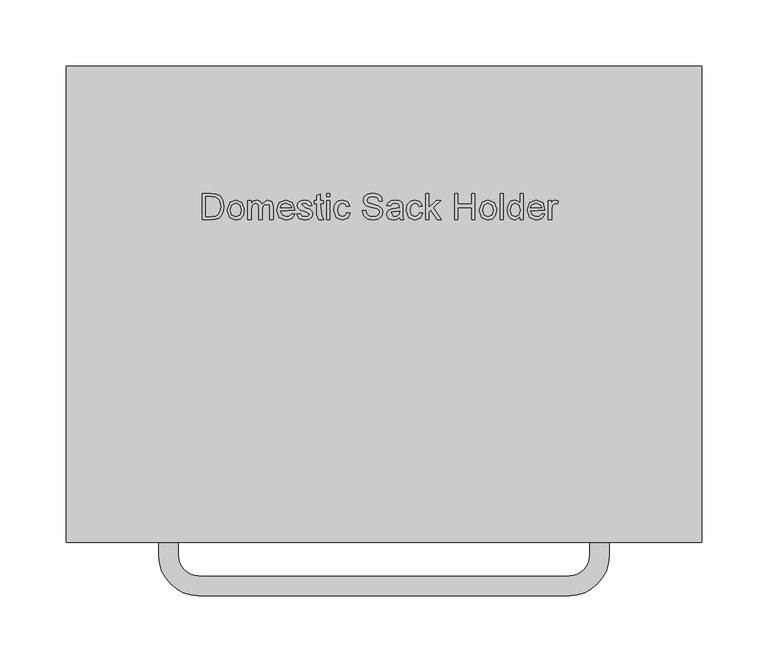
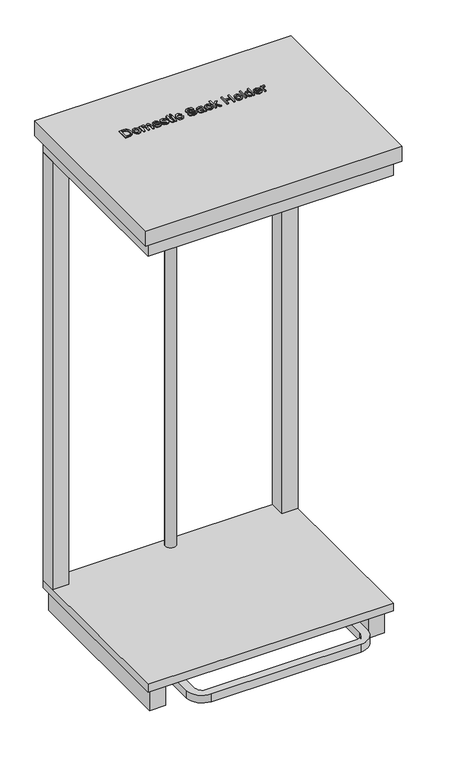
"""IFC4 building model written with IfcOpenShell, lengths in millimetres: furniture geometry, BIMHealth-Sack_Holder_Domestic-LOD2A-v1 : BIMHealth-Sack_Holder_Domestic-LOD2A-v1."""

from ifc_helpers import new_model, si_unit, point, frame, frame_2d, origin, origin_with_axes, place, context, project, spatial, polyline, circle_curve, trimmed, segment, composite_curve, outline, extrude, source, transform, mapped, element, save


def furniture_b2577ec9(model_context):
    return source(origin(), model_context, "Body", "SweptSolid", [
        extrude(outline(polyline([(82.8145603, -95.9720816), (82.8145603, -76.279774), (89.6078295, -76.279774), (93.1222526, -76.5634278), (96.0164833, -77.9720816), (98.3482141, -81.3374663), (99.1222526, -86.0201586), (98.5982141, -89.9937163), (97.2520603, -92.8615047), (95.4539833, -94.6475624), (93.100618, -95.6355432), (89.9347526, -95.9720816), (82.8145603, -95.9720816)]), holes=[polyline([(85.2760987, -93.5105432), (89.631868, -93.5105432), (92.8001372, -93.154774), (94.6270603, -92.1499663), (96.1246564, -89.7052547), (96.6607141, -85.981697), (95.6102333, -81.3182355), (93.0549449, -79.1355432), (89.5645603, -78.7413124), (85.2760987, -78.7413124), (85.2760987, -93.5105432)])]), frame((0.0, 0.0, 970.0), z_axis=(0.0, 0.0, 1.0), x_axis=(1.0, 0.0, 0.0)), (0.0, 0.0, 1.0), 2.0),
        extrude(outline(polyline([(101.583791, -88.7413124), (103.7135987, -82.8038124), (108.0501372, -81.2028509), (112.7015795, -83.1523701), (114.506868, -88.5393893), (113.708791, -92.919197), (111.3842718, -95.3975624), (108.0501372, -96.279774), (103.3698487, -94.3374663), (101.583791, -88.7413124)]), holes=[polyline([(104.0453295, -88.7365047), (105.1847526, -92.5514086), (108.0501372, -93.8182355), (110.9059064, -92.544197), (112.0453295, -88.6595816), (110.8986949, -84.9312163), (108.0501372, -83.6643893), (105.1847526, -84.9264086), (104.0453295, -88.7365047)])]), frame((0.0, 0.0, 970.0), z_axis=(0.0, 0.0, 1.0), x_axis=(1.0, 0.0, 0.0)), (0.0, 0.0, 1.0), 2.0),
        extrude(outline(polyline([(117.2760987, -95.9720816), (117.2760987, -81.5105432), (119.7376372, -81.5105432), (119.7376372, -83.8903509), (121.4299449, -81.9408316), (123.8385987, -81.2028509), (126.3049449, -81.9552547), (127.6607141, -84.0634278), (132.006868, -81.2028509), (135.225618, -82.3927547), (136.3530218, -86.0586201), (136.3530218, -95.9720816), (133.8914833, -95.9720816), (133.8914833, -87.1163124), (133.663118, -85.061024), (129.0092718, -84.6499663), (128.0453295, -87.8086201), (128.0453295, -95.9720816), (125.583791, -95.9720816), (125.583791, -86.842274), (125.0140795, -84.4576586), (123.146291, -83.6643893), (121.3241756, -84.1932355), (120.1126372, -85.7413124), (119.7376372, -88.6788124), (119.7376372, -95.9720816), (117.2760987, -95.9720816)])), frame((0.0, 0.0, 970.0), z_axis=(0.0, 0.0, 1.0), x_axis=(1.0, 0.0, 0.0)), (0.0, 0.0, 1.0), 2.0),
        extrude(outline(polyline([(150.1703295, -91.6643893), (152.583791, -91.9720816), (150.3265795, -95.1499663), (146.1222526, -96.279774), (141.0116756, -94.3302547), (139.1222526, -88.8615047), (141.0309064, -83.2124663), (145.9828295, -81.2028509), (150.7929256, -83.2076586), (152.6607141, -88.8470816), (141.583791, -89.5105432), (142.9996564, -92.7076586), (146.1703295, -93.8182355), (148.583791, -93.3038124), (150.1703295, -91.6643893)]), holes=[polyline([(141.583791, -87.0490047), (150.1991756, -87.0490047), (149.2135987, -84.8182355), (145.9732141, -83.6643893), (142.9419641, -84.5850624), (141.583791, -87.0490047)])]), frame((0.0, 0.0, 970.0), z_axis=(0.0, 0.0, 1.0), x_axis=(1.0, 0.0, 0.0)), (0.0, 0.0, 1.0), 2.0),
        extrude(outline(polyline([(154.1991756, -91.6643893), (156.6607141, -91.356697), (157.8001372, -93.1836201), (160.4107141, -93.8182355), (162.9203295, -93.2365047), (163.7376372, -91.8711201), (160.381868, -90.0634278), (156.6751372, -88.8591009), (155.0573487, -87.4528509), (154.506868, -85.467274), (154.9491756, -83.6331393), (156.1559064, -82.231697), (157.7208103, -81.5033316), (159.8385987, -81.2028509), (162.833791, -81.686024), (164.7376372, -82.9937163), (165.583791, -85.2028509), (163.1222526, -85.5105432), (162.1967718, -84.1523701), (160.0309064, -83.6643893), (157.6751372, -84.1307355), (160.3001372, -87.0009278), (163.913118, -88.1595816), (165.5910026, -89.4720816), (166.1991756, -91.6115047), (165.4852333, -93.967274), (163.4251372, -95.6764086), (160.3770603, -96.279774), (156.083791, -95.1163124), (154.1991756, -91.6643893)])), frame((0.0, 0.0, 970.0), z_axis=(0.0, 0.0, 1.0), x_axis=(1.0, 0.0, 0.0)), (0.0, 0.0, 1.0), 2.0),
        extrude(outline(polyline([(172.9684064, -92.9264086), (174.506868, -96.044197), (172.6655218, -96.279774), (170.6030218, -95.8711201), (169.2760987, -92.0057355), (169.2760987, -83.9720816), (167.4299449, -83.9720816), (167.4299449, -81.5105432), (169.2760987, -81.5105432), (169.2760987, -77.9961201), (171.7376372, -76.5490047), (171.7376372, -81.5105432), (174.1991756, -81.5105432), (174.1991756, -83.9720816), (171.7376372, -83.9720816), (172.9684064, -92.9264086)])), frame((0.0, 0.0, 970.0), z_axis=(0.0, 0.0, 1.0), x_axis=(1.0, 0.0, 0.0)), (0.0, 0.0, 1.0), 2.0),
        extrude(outline(polyline([(176.6607141, -95.9720816), (176.6607141, -81.5105432), (179.1222526, -81.5105432), (179.1222526, -95.9720816), (176.6607141, -95.9720816)])), frame((0.0, 0.0, 970.0), z_axis=(0.0, 0.0, 1.0), x_axis=(1.0, 0.0, 0.0)), (0.0, 0.0, 1.0), 2.0),
        extrude(outline(polyline([(176.6607141, -78.7413124), (176.6607141, -76.279774), (179.1222526, -76.279774), (179.1222526, -78.7413124), (176.6607141, -78.7413124)])), frame((0.0, 0.0, 970.0), z_axis=(0.0, 0.0, 1.0), x_axis=(1.0, 0.0, 0.0)), (0.0, 0.0, 1.0), 2.0),
        extrude(outline(polyline([(192.0453295, -90.7413124), (194.506868, -91.0490047), (192.5309064, -94.8927547), (188.6270603, -96.279774), (183.9611949, -94.3446778), (182.1991756, -88.794197), (182.9515795, -84.7052547), (185.2448487, -82.0778509), (188.5934064, -81.2028509), (192.3361949, -82.404774), (194.1991756, -85.8182355), (191.7376372, -86.1259278), (190.5958103, -84.2821778), (188.6126372, -83.6643893), (185.7592718, -84.8807355), (184.6607141, -88.7268893), (185.7352333, -92.6091009), (188.5453295, -93.8182355), (190.865041, -93.0634278), (192.0453295, -90.7413124)])), frame((0.0, 0.0, 970.0), z_axis=(0.0, 0.0, 1.0), x_axis=(1.0, 0.0, 0.0)), (0.0, 0.0, 1.0), 2.0),
        extrude(outline(polyline([(203.7376372, -89.2028509), (206.1991756, -89.2028509), (206.9924449, -91.6667932), (208.9299449, -93.2244855), (211.881868, -93.8182355), (214.4539833, -93.3687163), (216.115041, -92.1331393), (216.6607141, -90.481697), (216.2520603, -88.9456393), (214.5789833, -87.8278509), (210.9948487, -86.887947), (207.1366756, -85.6740047), (205.0429256, -83.842274), (204.3530218, -81.3951586), (205.2063872, -78.6091009), (207.6991756, -76.6427547), (211.3482141, -75.9720816), (215.2424449, -76.6740047), (217.8385987, -78.7365047), (218.8145603, -81.8182355), (216.3530218, -81.8182355), (214.958791, -79.2893893), (211.444368, -78.4336201), (207.9203295, -79.279774), (206.8145603, -81.3230432), (207.5982141, -83.029774), (211.6174449, -84.404774), (215.9732141, -85.6403509), (218.3554256, -87.6355432), (219.1222526, -90.419197), (218.240041, -93.3639086), (215.7015795, -95.512947), (211.9780218, -96.279774), (207.5813872, -95.4528509), (204.8001372, -92.9624663), (203.7376372, -89.2028509)])), frame((0.0, 0.0, 970.0), z_axis=(0.0, 0.0, 1.0), x_axis=(1.0, 0.0, 0.0)), (0.0, 0.0, 1.0), 2.0),
        extrude(outline(polyline([(231.7376372, -94.1259278), (229.350618, -95.794197), (226.7135987, -96.279774), (223.1390795, -95.1115047), (221.8914833, -92.1259278), (222.3626372, -90.1788124), (223.600618, -88.7653509), (225.3241756, -87.9576586), (227.4539833, -87.5874663), (231.7232141, -86.7413124), (231.0597526, -84.3759278), (228.3385987, -83.6643893), (225.8482141, -84.137947), (224.6607141, -85.8182355), (222.1991756, -85.5105432), (223.2640795, -83.106697), (225.4083103, -81.6980432), (228.6559064, -81.2028509), (231.6390795, -81.6403509), (233.3241756, -82.7389086), (234.0789833, -84.4095816), (234.1991756, -86.5634278), (234.1991756, -89.6259278), (234.3241756, -93.9023701), (234.8145603, -95.9720816), (232.3530218, -95.9720816), (231.7376372, -94.1259278)]), holes=[polyline([(231.7304256, -89.5514086), (227.7664833, -89.9576586), (225.6486949, -90.356697), (227.2376372, -93.8182355), (229.7280218, -93.2292932), (231.333791, -91.8038124), (231.7304256, -89.5514086)])]), frame((0.0, 0.0, 970.0), z_axis=(0.0, 0.0, 1.0), x_axis=(1.0, 0.0, 0.0)), (0.0, 0.0, 1.0), 2.0),
        extrude(outline(polyline([(246.8145603, -90.7413124), (249.2760987, -91.0490047), (247.3001372, -94.8927547), (243.396291, -96.279774), (238.7304256, -94.3446778), (236.9684064, -88.794197), (237.7208103, -84.7052547), (240.0140795, -82.0778509), (243.3626372, -81.2028509), (247.1054256, -82.404774), (248.9684064, -85.8182355), (246.506868, -86.1259278), (245.365041, -84.2821778), (243.381868, -83.6643893), (240.5285026, -84.8807355), (239.4299449, -88.7268893), (240.5044641, -92.6091009), (243.3145603, -93.8182355), (245.6342718, -93.0634278), (246.8145603, -90.7413124)])), frame((0.0, 0.0, 970.0), z_axis=(0.0, 0.0, 1.0), x_axis=(1.0, 0.0, 0.0)), (0.0, 0.0, 1.0), 2.0),
        extrude(outline(polyline([(251.4299449, -95.9720816), (251.4299449, -76.279774), (253.8914833, -76.279774), (253.8914833, -86.8615047), (259.4107141, -81.5105432), (262.8145603, -81.5105432), (257.2280218, -86.9288124), (263.1222526, -95.9720816), (260.2472526, -95.9720816), (255.4635987, -88.6403509), (253.8914833, -90.1643893), (253.8914833, -95.9720816), (251.4299449, -95.9720816)])), frame((0.0, 0.0, 970.0), z_axis=(0.0, 0.0, 1.0), x_axis=(1.0, 0.0, 0.0)), (0.0, 0.0, 1.0), 2.0),
        extrude(outline(polyline([(273.2760987, -95.9720816), (273.2760987, -76.279774), (275.7376372, -76.279774), (275.7376372, -84.279774), (286.1991756, -84.279774), (286.1991756, -76.279774), (288.6607141, -76.279774), (288.6607141, -95.9720816), (286.1991756, -95.9720816), (286.1991756, -86.7413124), (275.7376372, -86.7413124), (275.7376372, -95.9720816), (273.2760987, -95.9720816)])), frame((0.0, 0.0, 970.0), z_axis=(0.0, 0.0, 1.0), x_axis=(1.0, 0.0, 0.0)), (0.0, 0.0, 1.0), 2.0),
        extrude(outline(polyline([(292.0453295, -88.7413124), (294.1751372, -82.8038124), (298.5116756, -81.2028509), (303.163118, -83.1523701), (304.9684064, -88.5393893), (304.1703295, -92.919197), (301.8458103, -95.3975624), (298.5116756, -96.279774), (293.8313872, -94.3374663), (292.0453295, -88.7413124)]), holes=[polyline([(294.506868, -88.7365047), (295.646291, -92.5514086), (298.5116756, -93.8182355), (301.3674449, -92.544197), (302.506868, -88.6595816), (301.3602333, -84.9312163), (298.5116756, -83.6643893), (295.646291, -84.9264086), (294.506868, -88.7365047)])]), frame((0.0, 0.0, 970.0), z_axis=(0.0, 0.0, 1.0), x_axis=(1.0, 0.0, 0.0)), (0.0, 0.0, 1.0), 2.0),
        extrude(outline(polyline([(307.7376372, -95.9720816), (307.7376372, -76.279774), (310.1991756, -76.279774), (310.1991756, -95.9720816), (307.7376372, -95.9720816)])), frame((0.0, 0.0, 970.0), z_axis=(0.0, 0.0, 1.0), x_axis=(1.0, 0.0, 0.0)), (0.0, 0.0, 1.0), 2.0),
        extrude(outline(polyline([(322.8145603, -95.9720816), (322.8145603, -93.6499663), (318.9347526, -96.279774), (315.8866756, -95.3278509), (313.7328295, -92.6716009), (312.9684064, -88.7557355), (313.6727333, -84.8374663), (315.7833103, -82.1403509), (318.9251372, -81.2028509), (321.194368, -81.873524), (322.8145603, -83.6163124), (322.8145603, -76.279774), (325.2760987, -76.279774), (325.2760987, -95.9720816), (322.8145603, -95.9720816)]), holes=[polyline([(315.4299449, -88.7461201), (316.5405218, -92.5562163), (319.1607141, -93.8182355), (321.7496564, -92.6139086), (322.8145603, -88.9336201), (321.7304256, -84.9384278), (319.0597526, -83.6643893), (316.4684064, -84.887947), (315.4299449, -88.7461201)])]), frame((0.0, 0.0, 970.0), z_axis=(0.0, 0.0, 1.0), x_axis=(1.0, 0.0, 0.0)), (0.0, 0.0, 1.0), 2.0),
        extrude(outline(polyline([(339.0934064, -91.6643893), (341.506868, -91.9720816), (339.2496564, -95.1499663), (335.0453295, -96.279774), (329.9347526, -94.3302547), (328.0453295, -88.8615047), (329.9539833, -83.2124663), (334.9059064, -81.2028509), (339.7160026, -83.2076586), (341.583791, -88.8470816), (330.506868, -89.5105432), (331.9227333, -92.7076586), (335.0934064, -93.8182355), (337.506868, -93.3038124), (339.0934064, -91.6643893)]), holes=[polyline([(330.506868, -87.0490047), (339.1222526, -87.0490047), (338.1366756, -84.8182355), (334.896291, -83.6643893), (331.865041, -84.5850624), (330.506868, -87.0490047)])]), frame((0.0, 0.0, 970.0), z_axis=(0.0, 0.0, 1.0), x_axis=(1.0, 0.0, 0.0)), (0.0, 0.0, 1.0), 2.0),
        extrude(outline(polyline([(344.0453295, -95.9720816), (344.0453295, -81.5105432), (346.1991756, -81.5105432), (346.1991756, -83.6499663), (347.7280218, -81.6788124), (349.2664833, -81.2028509), (351.7376372, -81.9624663), (350.9155218, -84.169197), (349.1847526, -83.6643893), (346.9059064, -85.4961201), (346.506868, -88.3711201), (346.506868, -95.9720816), (344.0453295, -95.9720816)])), frame((0.0, 0.0, 970.0), z_axis=(0.0, 0.0, 1.0), x_axis=(1.0, 0.0, 0.0)), (0.0, 0.0, 1.0), 2.0),
        extrude(outline(polyline([(-20.0, -340.0), (-20.0, 20.0), (460.0, 20.0), (460.0, -340.0), (-20.0, -340.0)])), frame((0.0, 0.0, 940.0), z_axis=(0.0, 0.0, 1.0), x_axis=(1.0, 0.0, 0.0)), (0.0, 0.0, 1.0), 30.0),
        extrude(outline(composite_curve([segment(trimmed(circle_curve(frame_2d((220.0, -5.0)), 10.0), [point((210.0, -5.0))], [point((230.0, -5.0))], False, "CARTESIAN"), True, "CONTINUOUS"), segment(trimmed(circle_curve(frame_2d((220.0, -5.0)), 10.0), [point((230.0, -5.0))], [point((210.0, -5.0))], False, "CARTESIAN"), True, "CONTINUOUS")], self_intersect=False)), frame((0.0, 0.0, 62.5), z_axis=(0.0, 0.0, 1.0), x_axis=(1.0, 0.0, 0.0)), (0.0, 0.0, 1.0), 847.5),
        extrude(outline(polyline([(420.0, 10.0), (450.0, 10.0), (450.0, -20.0), (420.0, -20.0), (420.0, 10.0)])), frame((0.0, 0.0, 62.5), z_axis=(0.0, 0.0, 1.0), x_axis=(1.0, 0.0, 0.0)), (0.0, 0.0, 1.0), 847.5),
        extrude(outline(polyline([(20.0, 10.0), (20.0, -20.0), (-10.0, -20.0), (-10.0, 10.0), (20.0, 10.0)])), frame((0.0, 0.0, 62.5), z_axis=(0.0, 0.0, 1.0), x_axis=(1.0, 0.0, 0.0)), (0.0, 0.0, 1.0), 847.5),
        extrude(outline(polyline([(450.0, -330.0), (-10.0, -330.0), (-10.0, 10.0), (450.0, 10.0), (450.0, -330.0)])), frame((0.0, 0.0, 47.5), z_axis=(0.0, 0.0, 1.0), x_axis=(1.0, 0.0, 0.0)), (0.0, 0.0, 1.0), 15.0),
        extrude(outline(polyline([(450.0, -330.0), (-10.0, -330.0), (-10.0, 10.0), (450.0, 10.0), (450.0, -330.0)])), frame((0.0, 0.0, 910.0), z_axis=(0.0, 0.0, 1.0), x_axis=(1.0, 0.0, 0.0)), (0.0, 0.0, 1.0), 30.0),
        extrude(outline(polyline([(410.0, -20.0), (30.0, -20.0), (30.0, -317.779018), (0.0, -317.779018), (0.0, 10.0), (440.0, 10.0), (440.0, -317.779018), (410.0, -317.779018), (410.0, -20.0)])), origin_with_axes(), (0.0, 0.0, 1.0), 47.5),
        extrude(outline(composite_curve([segment(polyline([(360.0, -380.0), (80.0, -380.0)]), True, "CONTINUOUS"), segment(trimmed(circle_curve(frame_2d((80.0, -350.0)), 30.0), [point((80.0, -380.0))], [point((50.0, -350.0))], False, "CARTESIAN"), True, "CONTINUOUS"), segment(polyline([(50.0, -350.0), (50.0, -132.779018), (390.0, -132.779018), (390.0, -350.0)]), True, "CONTINUOUS"), segment(trimmed(circle_curve(frame_2d((360.0, -350.0)), 30.0), [point((390.0, -350.0))], [point((360.0, -380.0))], False, "CARTESIAN"), True, "CONTINUOUS")], self_intersect=False), holes=[composite_curve([segment(trimmed(circle_curve(frame_2d((80.0, -350.0)), 15.0), [point((65.0, -350.0))], [point((80.0, -365.0))], True, "CARTESIAN"), True, "CONTINUOUS"), segment(polyline([(80.0, -365.0), (360.0, -365.0)]), True, "CONTINUOUS"), segment(trimmed(circle_curve(frame_2d((360.0, -350.0)), 15.0), [point((360.0, -365.0))], [point((375.0, -350.0))], True, "CARTESIAN"), True, "CONTINUOUS"), segment(polyline([(375.0, -350.0), (375.0, -147.779018), (65.0, -147.779018), (65.0, -350.0)]), True, "CONTINUOUS")], self_intersect=False)]), frame((0.0, 0.0, 27.5), z_axis=(0.0, 0.0, 1.0), x_axis=(1.0, 0.0, 0.0)), (0.0, 0.0, 1.0), 15.0),
    ])


if __name__ == "__main__":
    model = new_model("IFC4")
    model_context = context("Model", 3, world=origin())
    ifc_project = project(units=[si_unit("LENGTHUNIT", "METRE", prefix="MILLI")], contexts=[model_context])
    site = spatial("IfcSite", under=ifc_project)
    building = spatial("IfcBuilding", under=site)
    placement = place(None, origin())
    furniture_shape = furniture_b2577ec9(model_context)
    element("IfcFurniture", 1, ObjectType="BIMHealth-Sack_Holder_Domestic-LOD2A-v1 : BIMHealth-Sack_Holder_Domestic-LOD2A-v1", at=placement, inside=building, context=model_context, shape_type="MappedRepresentation", body=[
        mapped(furniture_shape, transform((0.0, 0.0, 0.0), x_axis=(1.0, 0.0, 0.0), y_axis=(0.0, 1.0, 0.0), z_axis=(0.0, 0.0, 1.0))),
    ])
    save(model, "model.ifc")
